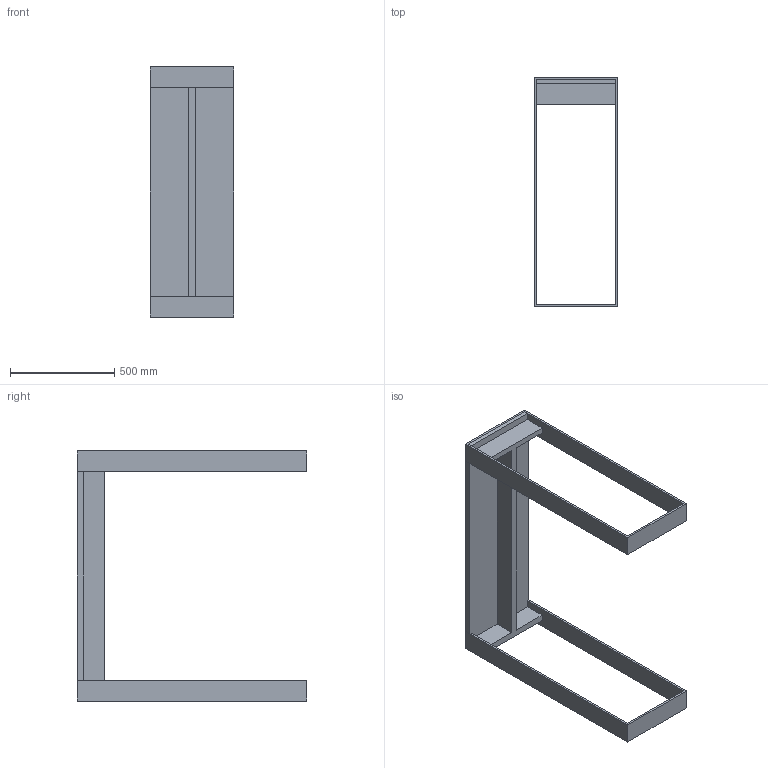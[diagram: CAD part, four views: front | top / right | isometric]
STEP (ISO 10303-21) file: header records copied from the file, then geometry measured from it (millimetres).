
FILE_DESCRIPTION (( 'STEP AP203' ), '1' );
FILE_NAME ('Haag 1200x400x1100.STEP', '2019-04-02T18:01:24', ( '' ), ( '' ), 'SwSTEP 2.0', 'SolidWorks 2019', '' );
FILE_SCHEMA (( 'CONFIG_CONTROL_DESIGN' ));
Length unit declared in the file: millimetre
Products named in the file (1): Haag 1200x400x1100
Bounding box: 400 x 1100 x 1200 mm (x, y, z)
Volume: 24930000 mm3; surface area: 2828200 mm2
Topology: 4 solids, 4 shells, 48 faces, 120 edges, 80 vertices
Faces by surface type: plane 48
Entity records: 1483 total; most frequent: CARTESIAN_POINT 249, ORIENTED_EDGE 240, DIRECTION 218, VECTOR 120, EDGE_CURVE 120, LINE 120, VERTEX_POINT 80, EDGE_LOOP 52
